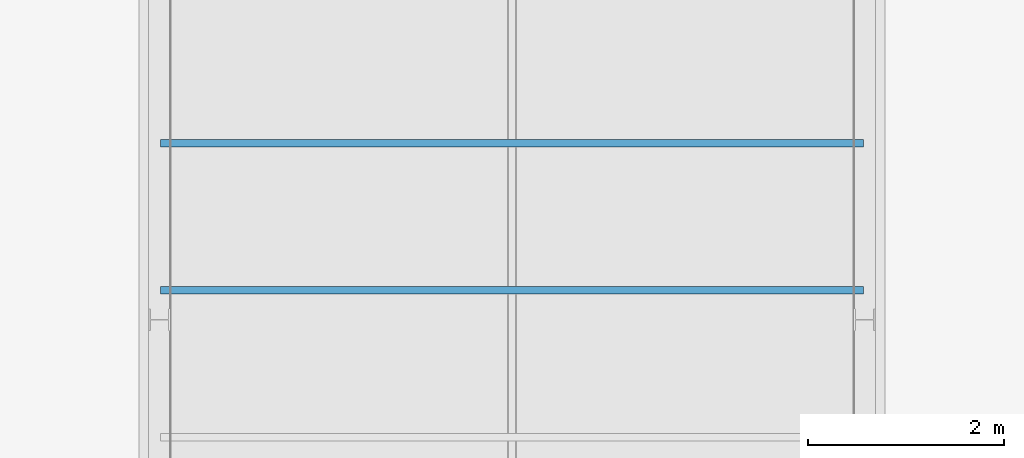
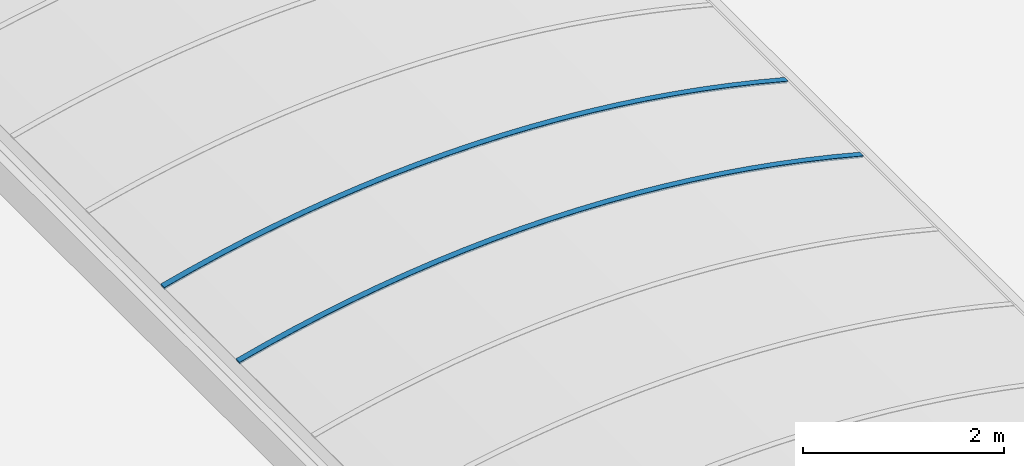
# One storey, part 57 of 81: 2 beams.
"""IFC2X3 building model written with IfcOpenShell, lengths in millimetres."""

from ifc_helpers import new_model, entity, si_unit, converted_unit, derived_unit, money_unit, direction, frame, origin_with_axes, place, context, subcontext, project, spatial, faceted_brep, material, material_list, type_object, element, save


model = new_model("IFC2X3")

# Units and contexts
model_context = context("Model", 3, precision=0.01, world=origin_with_axes(), true_north=direction((0.0, 1.0)))
body_context = subcontext(model_context, "Body", "Model", "MODEL_VIEW")
ifc_project = project(units=[si_unit("LENGTHUNIT", "METRE", prefix="MILLI"), si_unit("AREAUNIT", "SQUARE_METRE"), si_unit("VOLUMEUNIT", "CUBIC_METRE"), converted_unit("PLANEANGLEUNIT", "DEGREE", entity("IfcPlaneAngleMeasure", 0.0174532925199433), si_unit("PLANEANGLEUNIT", "RADIAN"), dimensions=[0, 0, 0, 0, 0, 0, 0]), money_unit("EUR"), converted_unit("TIMEUNIT", "Year", entity("IfcTimeMeasure", 31557600.0), si_unit("TIMEUNIT", "SECOND"), dimensions=[0, 0, 1, 0, 0, 0, 0]), si_unit("MASSUNIT", "GRAM", prefix="KILO"), si_unit("THERMODYNAMICTEMPERATUREUNIT", "DEGREE_CELSIUS"), si_unit("LUMINOUSINTENSITYUNIT", "LUMEN"), si_unit("ENERGYUNIT", "JOULE", prefix="MEGA"), derived_unit("THERMALCONDUCTANCEUNIT", [(si_unit("POWERUNIT", "WATT"), 1), (si_unit("LENGTHUNIT", "METRE"), -1), (si_unit("THERMODYNAMICTEMPERATUREUNIT", "KELVIN"), -1)]), derived_unit("SPECIFICHEATCAPACITYUNIT", [(si_unit("ENERGYUNIT", "JOULE"), 1), (si_unit("MASSUNIT", "GRAM", prefix="KILO"), -1), (si_unit("THERMODYNAMICTEMPERATUREUNIT", "KELVIN"), -1)]), derived_unit("MASSDENSITYUNIT", [(si_unit("MASSUNIT", "GRAM", prefix="KILO"), 1), (si_unit("VOLUMEUNIT", "CUBIC_METRE"), -1)])], contexts=[model_context])

# Site, building, storey
site_placement = place(None, origin_with_axes())
site = spatial("IfcSite", under=ifc_project, at=site_placement, Name="Site", CompositionType="ELEMENT")
building_placement = place(site_placement, origin_with_axes())
building = spatial("IfcBuilding", under=site, at=building_placement, Name="Naam gebouw", CompositionType="ELEMENT")
storey_placement = place(building_placement, frame((0.0, 0.0, 15320.0), z_axis=(0.0, 0.0, 1.0), x_axis=(1.0, 0.0, 0.0)))
storey = spatial("IfcBuildingStorey", under=building, at=storey_placement, Name="01 dak", CompositionType="ELEMENT", Elevation=15320.0)

# Beams
ifc_material = material(Name="Metaal - Aluminium AFW")
ifc_material_list = material_list([ifc_material, ifc_material])
beam_type = type_object("IfcBeamType", Name="lichtstraat polycarbonaat (constructie) 7420 x 670", PredefinedType="BEAM")
beam_1_placement = place(storey_placement, frame((105300.0, 83862.50000000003, 559.9999999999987), z_axis=(0.0, 0.0, 1.0), x_axis=(1.0, 0.0, 0.0)))
element("IfcBeam", 1, at=beam_1_placement, inside=storey, type_object=beam_type, material=ifc_material_list, Name="Plafondafwerking 3", ObjectType="BEAM", context=body_context, shape_type="Brep", body=[
    faceted_brep([(-3532.999999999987, 75.00000000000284, 192.1385480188), (-3532.999999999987, 0.0, 192.1385480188), (-3582.999999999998, 0.0, 179.000000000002), (-3582.999999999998, 75.00000000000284, 179.000000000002), (-3527.999999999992, 75.00000000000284, 193.4415530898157), (-3527.999999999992, 0.0, 193.4415530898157), (-2943.44844329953, 0.0, 337.3385317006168), (-3264.746952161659, 0.0, 264.2761146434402), (-3584.237010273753, 0.0, 183.6724462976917), (-3213.32287812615, 0.0, 271.5053933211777), (-2896.922437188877, 0.0, 342.2614189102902), (-2578.96836412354, 0.0, 405.6716830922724), (-2259.631179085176, 0.0, 461.7021786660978), (-1939.082143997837, 0.0, 510.3228562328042), (-1617.493170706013, 0.0, 551.5076403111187), (-1295.036728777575, 0.0, 585.2344433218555), (-971.8857530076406, 0.0, 611.485177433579), (-648.2135506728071, 0.0, 630.2457642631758), (-324.1937085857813, 0.0, 641.5061424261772), (0.0, 0.0, 645.2602729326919), (324.1937085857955, 0.0, 641.5061424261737), (648.2135506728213, 0.0, 630.2457642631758), (971.8857530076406, 0.0, 611.4851774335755), (1295.036728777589, 0.0, 585.2344433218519), (1617.493170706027, 0.0, 551.5076403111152), (1939.082143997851, 0.0, 510.3228562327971), (2259.63117908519, 0.0, 461.7021786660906), (2578.96836412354, 0.0, 405.6716830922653), (2896.922437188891, 0.0, 342.2614189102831), (3213.322878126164, 0.0, 271.5053933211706), (3528.000000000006, 0.0, 193.4415530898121), (3528.000000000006, 0.0, 194.0000000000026), (3533.000000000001, 0.0, 194.0000000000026), (3533.000000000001, 0.0, 192.1385480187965), (3582.999999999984, 0.0, 179.000000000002), (3584.237010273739, 0.0, 183.6724462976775), (3264.746952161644, 0.0, 264.2761146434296), (2943.448443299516, 0.0, 337.3385317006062), (2620.51946150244, 0.0, 402.8192257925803), (2296.138887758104, 0.0, 460.6819250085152), (1970.486407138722, 0.0, 510.8945772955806), (1643.742409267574, 0.0, 553.4293682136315), (1316.087888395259, 0.0, 588.2627363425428), (987.7043431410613, 0.0, 615.3753863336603), (658.7736759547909, 0.0, 634.7522995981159), (329.4780923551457, 0.0, 646.3827426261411), (0.0, 0.0, 650.2602729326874), (-329.4780923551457, 0.0, 646.3827426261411), (-658.7736759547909, 0.0, 634.7522995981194), (-987.7043431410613, 0.0, 615.375386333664), (-1316.087888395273, 0.0, 588.2627363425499), (-1643.742409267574, 0.0, 553.4293682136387), (-1970.486407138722, 0.0, 510.8945772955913), (-2296.138887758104, 0.0, 460.6819250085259), (-2620.519461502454, 0.0, 402.8192257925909), (-3584.237010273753, 75.00000000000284, 183.6724462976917), (-3213.32287812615, 75.00000000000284, 271.5053933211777), (-3264.746952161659, 75.00000000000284, 264.2761146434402), (-2943.44844329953, 75.00000000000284, 337.3385317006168), (-2620.519461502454, 75.00000000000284, 402.8192257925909), (-2296.138887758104, 75.00000000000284, 460.6819250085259), (-1970.486407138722, 75.00000000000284, 510.8945772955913), (-1643.742409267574, 75.00000000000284, 553.4293682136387), (-1316.087888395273, 75.00000000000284, 588.2627363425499), (-987.7043431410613, 75.00000000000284, 615.375386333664), (-658.7736759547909, 75.00000000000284, 634.7522995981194), (-329.4780923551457, 75.00000000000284, 646.3827426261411), (0.0, 75.00000000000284, 650.2602729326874), (329.4780923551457, 75.00000000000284, 646.3827426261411), (658.7736759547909, 75.00000000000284, 634.7522995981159), (987.7043431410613, 75.00000000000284, 615.3753863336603), (1316.087888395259, 75.00000000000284, 588.2627363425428), (1643.742409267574, 75.00000000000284, 553.4293682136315), (1970.486407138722, 75.00000000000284, 510.8945772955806), (2296.138887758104, 75.00000000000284, 460.6819250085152), (2620.51946150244, 75.00000000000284, 402.8192257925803), (2943.448443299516, 75.00000000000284, 337.3385317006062), (3264.746952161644, 75.00000000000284, 264.2761146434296), (3584.237010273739, 75.00000000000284, 183.6724462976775), (3582.999999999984, 75.00000000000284, 179.000000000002), (3533.000000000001, 75.00000000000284, 192.1385480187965), (3533.000000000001, 75.00000000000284, 194.0000000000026), (3528.000000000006, 75.00000000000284, 194.0000000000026), (3528.000000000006, 75.00000000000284, 193.4415530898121), (3213.322878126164, 75.00000000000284, 271.5053933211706), (2896.922437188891, 75.00000000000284, 342.2614189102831), (2578.96836412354, 75.00000000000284, 405.6716830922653), (2259.63117908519, 75.00000000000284, 461.7021786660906), (1939.082143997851, 75.00000000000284, 510.3228562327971), (1617.493170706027, 75.00000000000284, 551.5076403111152), (1295.036728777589, 75.00000000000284, 585.2344433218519), (971.8857530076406, 75.00000000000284, 611.4851774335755), (648.2135506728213, 75.00000000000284, 630.2457642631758), (324.1937085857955, 75.00000000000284, 641.5061424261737), (0.0, 75.00000000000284, 645.2602729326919), (-324.1937085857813, 75.00000000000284, 641.5061424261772), (-648.2135506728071, 75.00000000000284, 630.2457642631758), (-971.8857530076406, 75.00000000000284, 611.485177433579), (-1295.036728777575, 75.00000000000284, 585.2344433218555), (-1617.493170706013, 75.00000000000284, 551.5076403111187), (-1939.082143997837, 75.00000000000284, 510.3228562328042), (-2259.631179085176, 75.00000000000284, 461.7021786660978), (-2578.96836412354, 75.00000000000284, 405.6716830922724), (-2896.922437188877, 75.00000000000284, 342.2614189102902)], [[[0, 1, 2, 3]], [[4, 5, 1, 0]], [[6, 7, 8, 2, 1, 5, 9, 10, 11, 12, 13, 14, 15, 16, 17, 18, 19, 20, 21, 22, 23, 24, 25, 26, 27, 28, 29, 30, 31, 32, 33, 34, 35, 36, 37, 38, 39, 40, 41, 42, 43, 44, 45, 46, 47, 48, 49, 50, 51, 52, 53, 54]], [[3, 2, 8, 55]], [[56, 4, 0, 3, 55, 57, 58, 59, 60, 61, 62, 63, 64, 65, 66, 67, 68, 69, 70, 71, 72, 73, 74, 75, 76, 77, 78, 79, 80, 81, 82, 83, 84, 85, 86, 87, 88, 89, 90, 91, 92, 93, 94, 95, 96, 97, 98, 99, 100, 101, 102, 103]], [[56, 9, 5, 4]], [[57, 7, 6, 58]], [[55, 8, 7, 57]], [[103, 10, 9, 56]], [[102, 11, 10, 103]], [[101, 12, 11, 102]], [[100, 13, 12, 101]], [[99, 14, 13, 100]], [[98, 15, 14, 99]], [[97, 16, 15, 98]], [[96, 17, 16, 97]], [[95, 18, 17, 96]], [[94, 19, 18, 95]], [[93, 20, 19, 94]], [[92, 21, 20, 93]], [[91, 22, 21, 92]], [[90, 23, 22, 91]], [[89, 24, 23, 90]], [[88, 25, 24, 89]], [[87, 26, 25, 88]], [[86, 27, 26, 87]], [[85, 28, 27, 86]], [[84, 29, 28, 85]], [[83, 30, 29, 84]], [[82, 31, 30, 83]], [[81, 32, 31, 82]], [[80, 33, 32, 81]], [[79, 34, 33, 80]], [[78, 35, 34, 79]], [[77, 36, 35, 78]], [[76, 37, 36, 77]], [[75, 38, 37, 76]], [[74, 39, 38, 75]], [[73, 40, 39, 74]], [[72, 41, 40, 73]], [[71, 42, 41, 72]], [[70, 43, 42, 71]], [[69, 44, 43, 70]], [[68, 45, 44, 69]], [[67, 46, 45, 68]], [[66, 47, 46, 67]], [[65, 48, 47, 66]], [[64, 49, 48, 65]], [[63, 50, 49, 64]], [[62, 51, 50, 63]], [[61, 52, 51, 62]], [[60, 53, 52, 61]], [[59, 54, 53, 60]], [[58, 6, 54, 59]]]),
    faceted_brep([(3269.271727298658, 75.00000000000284, 283.190243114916), (2947.542627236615, 75.00000000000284, 356.4574241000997), (2947.542627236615, 0.0, 356.4574241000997), (3269.271727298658, 0.0, 283.190243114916), (3589.184752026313, 75.00000000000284, 202.3611008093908), (3587.947861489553, 75.00000000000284, 197.6891067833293), (3528.000000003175, 75.00000000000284, 213.4415530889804), (3213.322878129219, 75.00000000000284, 291.505393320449), (2896.922437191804, 75.00000000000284, 362.2614189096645), (2578.968364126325, 75.00000000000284, 425.6716830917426), (2259.631179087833, 75.00000000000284, 481.7021786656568), (1939.082144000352, 75.00000000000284, 530.3228562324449), (1617.493170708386, 75.00000000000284, 571.5076403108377), (1295.036728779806, 75.00000000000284, 605.2344433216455), (971.8857530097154, 75.00000000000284, 631.4851774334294), (648.2135506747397, 75.00000000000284, 650.2457642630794), (324.1937085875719, 75.00000000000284, 661.5061424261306), (1.63424829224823e-09, 75.00000000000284, 665.2602729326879), (-324.1937085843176, 75.00000000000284, 661.5061424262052), (-648.2135506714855, 75.00000000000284, 650.2457642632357), (-971.8857530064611, 75.00000000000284, 631.4851774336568), (-1295.036728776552, 75.00000000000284, 605.2344433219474), (-1617.493170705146, 75.00000000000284, 571.5076403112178), (-1939.082143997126, 75.00000000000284, 530.3228562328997), (-2259.631179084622, 75.00000000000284, 481.7021786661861), (-2578.968364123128, 75.00000000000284, 425.6716830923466), (-2896.922437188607, 75.00000000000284, 362.2614189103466), (-3213.322878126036, 75.00000000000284, 291.5053933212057), (-3528.00000000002, 75.00000000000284, 213.4415530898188), (-3533.000000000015, 75.00000000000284, 212.1385480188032), (-3587.947861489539, 75.00000000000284, 197.6891067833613), (-3589.184752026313, 75.00000000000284, 202.3611008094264), (-3269.271727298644, 75.00000000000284, 283.1902431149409), (-2947.542627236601, 75.00000000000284, 356.4574241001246), (-2624.176171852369, 75.00000000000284, 422.1219439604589), (-2299.351990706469, 75.00000000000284, 480.1473261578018), (-1973.250523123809, 75.00000000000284, 530.5013376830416), (-1646.052917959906, 75.00000000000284, 573.156006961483), (-1317.940932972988, 75.00000000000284, 608.0876393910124), (-989.0968338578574, 75.00000000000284, 635.2768305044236), (-659.7032929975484, 75.00000000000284, 654.7084767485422), (-329.9432879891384, 75.00000000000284, 666.3717838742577), (0.0, 75.00000000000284, 670.2602729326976), (329.9432879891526, 75.00000000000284, 666.3717838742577), (659.7032929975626, 75.00000000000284, 654.7084767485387), (989.0968338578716, 75.00000000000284, 635.2768305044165), (1317.940932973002, 75.00000000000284, 608.0876393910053), (1646.052917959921, 75.00000000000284, 573.1560069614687), (1973.250523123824, 75.00000000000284, 530.5013376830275), (2299.351990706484, 75.00000000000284, 480.147326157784), (2624.176171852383, 75.00000000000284, 422.1219439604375), (2624.176171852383, 0.0, 422.1219439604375), (2299.351990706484, 0.0, 480.147326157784), (1973.250523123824, 0.0, 530.5013376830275), (1646.052917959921, 0.0, 573.1560069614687), (1317.940932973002, 0.0, 608.0876393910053), (989.0968338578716, 0.0, 635.2768305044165), (659.7032929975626, 0.0, 654.7084767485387), (329.9432879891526, 0.0, 666.3717838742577), (0.0, 0.0, 670.2602729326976), (-329.9432879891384, 0.0, 666.3717838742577), (-659.7032929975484, 0.0, 654.7084767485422), (-989.0968338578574, 0.0, 635.2768305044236), (-1317.940932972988, 0.0, 608.0876393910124), (-1646.052917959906, 0.0, 573.156006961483), (-1973.250523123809, 0.0, 530.5013376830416), (-2299.351990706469, 0.0, 480.1473261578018), (-2624.176171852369, 0.0, 422.1219439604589), (-2947.542627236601, 0.0, 356.4574241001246), (-3269.271727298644, 0.0, 283.1902431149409), (-3589.184752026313, 0.0, 202.3611008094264), (-3587.947861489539, 0.0, 197.6891067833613), (-3533.000000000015, 0.0, 212.1385480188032), (-3528.00000000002, 0.0, 213.4415530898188), (-3213.322878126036, 0.0, 291.5053933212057), (-2896.922437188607, 0.0, 362.2614189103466), (-2578.968364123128, 0.0, 425.6716830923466), (-2259.631179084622, 0.0, 481.7021786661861), (-1939.082143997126, 0.0, 530.3228562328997), (-1617.493170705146, 0.0, 571.5076403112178), (-1295.036728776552, 0.0, 605.2344433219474), (-971.8857530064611, 0.0, 631.4851774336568), (-648.2135506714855, 0.0, 650.2457642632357), (-324.1937085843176, 0.0, 661.5061424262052), (1.63424829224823e-09, 0.0, 665.2602729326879), (324.1937085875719, 0.0, 661.5061424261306), (648.2135506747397, 0.0, 650.2457642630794), (971.8857530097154, 0.0, 631.4851774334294), (1295.036728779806, 0.0, 605.2344433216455), (1617.493170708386, 0.0, 571.5076403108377), (1939.082144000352, 0.0, 530.3228562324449), (2259.631179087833, 0.0, 481.7021786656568), (2578.968364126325, 0.0, 425.6716830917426), (2896.922437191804, 0.0, 362.2614189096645), (3213.322878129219, 0.0, 291.505393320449), (3528.000000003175, 0.0, 213.4415530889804), (3587.947861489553, 0.0, 197.6891067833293), (3589.184752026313, 0.0, 202.3611008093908)], [[[0, 1, 2, 3]], [[0, 4, 5, 6, 7, 8, 9, 10, 11, 12, 13, 14, 15, 16, 17, 18, 19, 20, 21, 22, 23, 24, 25, 26, 27, 28, 29, 30, 31, 32, 33, 34, 35, 36, 37, 38, 39, 40, 41, 42, 43, 44, 45, 46, 47, 48, 49, 50, 1]], [[1, 50, 51, 2]], [[3, 2, 51, 52, 53, 54, 55, 56, 57, 58, 59, 60, 61, 62, 63, 64, 65, 66, 67, 68, 69, 70, 71, 72, 73, 74, 75, 76, 77, 78, 79, 80, 81, 82, 83, 84, 85, 86, 87, 88, 89, 90, 91, 92, 93, 94, 95, 96, 97]], [[4, 0, 3, 97]], [[5, 4, 97, 96]], [[6, 5, 96, 95]], [[7, 6, 95, 94]], [[8, 7, 94, 93]], [[9, 8, 93, 92]], [[10, 9, 92, 91]], [[11, 10, 91, 90]], [[12, 11, 90, 89]], [[13, 12, 89, 88]], [[14, 13, 88, 87]], [[15, 14, 87, 86]], [[16, 15, 86, 85]], [[17, 16, 85, 84]], [[18, 17, 84, 83]], [[19, 18, 83, 82]], [[20, 19, 82, 81]], [[21, 20, 81, 80]], [[22, 21, 80, 79]], [[23, 22, 79, 78]], [[24, 23, 78, 77]], [[25, 24, 77, 76]], [[26, 25, 76, 75]], [[27, 26, 75, 74]], [[28, 27, 74, 73]], [[29, 28, 73, 72]], [[30, 29, 72, 71]], [[31, 30, 71, 70]], [[32, 31, 70, 69]], [[33, 32, 69, 68]], [[34, 33, 68, 67]], [[35, 34, 67, 66]], [[36, 35, 66, 65]], [[37, 36, 65, 64]], [[38, 37, 64, 63]], [[39, 38, 63, 62]], [[40, 39, 62, 61]], [[41, 40, 61, 60]], [[42, 41, 60, 59]], [[43, 42, 59, 58]], [[44, 43, 58, 57]], [[45, 44, 57, 56]], [[46, 45, 56, 55]], [[47, 46, 55, 54]], [[48, 47, 54, 53]], [[49, 48, 53, 52]], [[50, 49, 52, 51]]]),
])
beam_2_placement = place(storey_placement, frame((105300.0, 85362.50000000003, 559.9999999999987), z_axis=(0.0, 0.0, 1.0), x_axis=(1.0, 0.0, 0.0)))
element("IfcBeam", 2, at=beam_2_placement, inside=storey, type_object=beam_type, material=ifc_material_list, Name="Plafondafwerking 3", ObjectType="BEAM", context=body_context, shape_type="Brep", body=[
    faceted_brep([(-3532.999999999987, 75.00000000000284, 192.1385480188), (-3532.999999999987, 0.0, 192.1385480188), (-3582.999999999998, 0.0, 179.000000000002), (-3582.999999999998, 75.00000000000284, 179.000000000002), (-3527.999999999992, 75.00000000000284, 193.4415530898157), (-3527.999999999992, 0.0, 193.4415530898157), (-2943.44844329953, 0.0, 337.3385317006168), (-3264.746952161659, 0.0, 264.2761146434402), (-3584.237010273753, 0.0, 183.6724462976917), (-3213.32287812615, 0.0, 271.5053933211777), (-2896.922437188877, 0.0, 342.2614189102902), (-2578.96836412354, 0.0, 405.6716830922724), (-2259.631179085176, 0.0, 461.7021786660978), (-1939.082143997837, 0.0, 510.3228562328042), (-1617.493170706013, 0.0, 551.5076403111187), (-1295.036728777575, 0.0, 585.2344433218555), (-971.8857530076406, 0.0, 611.485177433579), (-648.2135506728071, 0.0, 630.2457642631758), (-324.1937085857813, 0.0, 641.5061424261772), (0.0, 0.0, 645.2602729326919), (324.1937085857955, 0.0, 641.5061424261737), (648.2135506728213, 0.0, 630.2457642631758), (971.8857530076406, 0.0, 611.4851774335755), (1295.036728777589, 0.0, 585.2344433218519), (1617.493170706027, 0.0, 551.5076403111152), (1939.082143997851, 0.0, 510.3228562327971), (2259.63117908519, 0.0, 461.7021786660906), (2578.96836412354, 0.0, 405.6716830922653), (2896.922437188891, 0.0, 342.2614189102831), (3213.322878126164, 0.0, 271.5053933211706), (3528.000000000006, 0.0, 193.4415530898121), (3528.000000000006, 0.0, 194.0000000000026), (3533.000000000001, 0.0, 194.0000000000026), (3533.000000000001, 0.0, 192.1385480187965), (3582.999999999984, 0.0, 179.000000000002), (3584.237010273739, 0.0, 183.6724462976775), (3264.746952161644, 0.0, 264.2761146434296), (2943.448443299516, 0.0, 337.3385317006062), (2620.51946150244, 0.0, 402.8192257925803), (2296.138887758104, 0.0, 460.6819250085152), (1970.486407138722, 0.0, 510.8945772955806), (1643.742409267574, 0.0, 553.4293682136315), (1316.087888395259, 0.0, 588.2627363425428), (987.7043431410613, 0.0, 615.3753863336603), (658.7736759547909, 0.0, 634.7522995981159), (329.4780923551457, 0.0, 646.3827426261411), (0.0, 0.0, 650.2602729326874), (-329.4780923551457, 0.0, 646.3827426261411), (-658.7736759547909, 0.0, 634.7522995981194), (-987.7043431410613, 0.0, 615.375386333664), (-1316.087888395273, 0.0, 588.2627363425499), (-1643.742409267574, 0.0, 553.4293682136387), (-1970.486407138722, 0.0, 510.8945772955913), (-2296.138887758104, 0.0, 460.6819250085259), (-2620.519461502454, 0.0, 402.8192257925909), (-3584.237010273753, 75.00000000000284, 183.6724462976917), (-3213.32287812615, 75.00000000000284, 271.5053933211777), (-3264.746952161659, 75.00000000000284, 264.2761146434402), (-2943.44844329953, 75.00000000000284, 337.3385317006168), (-2620.519461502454, 75.00000000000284, 402.8192257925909), (-2296.138887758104, 75.00000000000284, 460.6819250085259), (-1970.486407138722, 75.00000000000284, 510.8945772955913), (-1643.742409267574, 75.00000000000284, 553.4293682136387), (-1316.087888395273, 75.00000000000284, 588.2627363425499), (-987.7043431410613, 75.00000000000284, 615.375386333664), (-658.7736759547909, 75.00000000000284, 634.7522995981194), (-329.4780923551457, 75.00000000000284, 646.3827426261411), (0.0, 75.00000000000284, 650.2602729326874), (329.4780923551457, 75.00000000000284, 646.3827426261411), (658.7736759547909, 75.00000000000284, 634.7522995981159), (987.7043431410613, 75.00000000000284, 615.3753863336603), (1316.087888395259, 75.00000000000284, 588.2627363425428), (1643.742409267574, 75.00000000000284, 553.4293682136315), (1970.486407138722, 75.00000000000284, 510.8945772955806), (2296.138887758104, 75.00000000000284, 460.6819250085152), (2620.51946150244, 75.00000000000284, 402.8192257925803), (2943.448443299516, 75.00000000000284, 337.3385317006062), (3264.746952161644, 75.00000000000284, 264.2761146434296), (3584.237010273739, 75.00000000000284, 183.6724462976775), (3582.999999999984, 75.00000000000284, 179.000000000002), (3533.000000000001, 75.00000000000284, 192.1385480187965), (3533.000000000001, 75.00000000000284, 194.0000000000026), (3528.000000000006, 75.00000000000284, 194.0000000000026), (3528.000000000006, 75.00000000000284, 193.4415530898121), (3213.322878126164, 75.00000000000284, 271.5053933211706), (2896.922437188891, 75.00000000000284, 342.2614189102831), (2578.96836412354, 75.00000000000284, 405.6716830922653), (2259.63117908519, 75.00000000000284, 461.7021786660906), (1939.082143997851, 75.00000000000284, 510.3228562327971), (1617.493170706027, 75.00000000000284, 551.5076403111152), (1295.036728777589, 75.00000000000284, 585.2344433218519), (971.8857530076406, 75.00000000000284, 611.4851774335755), (648.2135506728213, 75.00000000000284, 630.2457642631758), (324.1937085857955, 75.00000000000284, 641.5061424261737), (0.0, 75.00000000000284, 645.2602729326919), (-324.1937085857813, 75.00000000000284, 641.5061424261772), (-648.2135506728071, 75.00000000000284, 630.2457642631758), (-971.8857530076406, 75.00000000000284, 611.485177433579), (-1295.036728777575, 75.00000000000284, 585.2344433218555), (-1617.493170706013, 75.00000000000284, 551.5076403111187), (-1939.082143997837, 75.00000000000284, 510.3228562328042), (-2259.631179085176, 75.00000000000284, 461.7021786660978), (-2578.96836412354, 75.00000000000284, 405.6716830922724), (-2896.922437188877, 75.00000000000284, 342.2614189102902)], [[[0, 1, 2, 3]], [[4, 5, 1, 0]], [[6, 7, 8, 2, 1, 5, 9, 10, 11, 12, 13, 14, 15, 16, 17, 18, 19, 20, 21, 22, 23, 24, 25, 26, 27, 28, 29, 30, 31, 32, 33, 34, 35, 36, 37, 38, 39, 40, 41, 42, 43, 44, 45, 46, 47, 48, 49, 50, 51, 52, 53, 54]], [[3, 2, 8, 55]], [[56, 4, 0, 3, 55, 57, 58, 59, 60, 61, 62, 63, 64, 65, 66, 67, 68, 69, 70, 71, 72, 73, 74, 75, 76, 77, 78, 79, 80, 81, 82, 83, 84, 85, 86, 87, 88, 89, 90, 91, 92, 93, 94, 95, 96, 97, 98, 99, 100, 101, 102, 103]], [[56, 9, 5, 4]], [[57, 7, 6, 58]], [[55, 8, 7, 57]], [[103, 10, 9, 56]], [[102, 11, 10, 103]], [[101, 12, 11, 102]], [[100, 13, 12, 101]], [[99, 14, 13, 100]], [[98, 15, 14, 99]], [[97, 16, 15, 98]], [[96, 17, 16, 97]], [[95, 18, 17, 96]], [[94, 19, 18, 95]], [[93, 20, 19, 94]], [[92, 21, 20, 93]], [[91, 22, 21, 92]], [[90, 23, 22, 91]], [[89, 24, 23, 90]], [[88, 25, 24, 89]], [[87, 26, 25, 88]], [[86, 27, 26, 87]], [[85, 28, 27, 86]], [[84, 29, 28, 85]], [[83, 30, 29, 84]], [[82, 31, 30, 83]], [[81, 32, 31, 82]], [[80, 33, 32, 81]], [[79, 34, 33, 80]], [[78, 35, 34, 79]], [[77, 36, 35, 78]], [[76, 37, 36, 77]], [[75, 38, 37, 76]], [[74, 39, 38, 75]], [[73, 40, 39, 74]], [[72, 41, 40, 73]], [[71, 42, 41, 72]], [[70, 43, 42, 71]], [[69, 44, 43, 70]], [[68, 45, 44, 69]], [[67, 46, 45, 68]], [[66, 47, 46, 67]], [[65, 48, 47, 66]], [[64, 49, 48, 65]], [[63, 50, 49, 64]], [[62, 51, 50, 63]], [[61, 52, 51, 62]], [[60, 53, 52, 61]], [[59, 54, 53, 60]], [[58, 6, 54, 59]]]),
    faceted_brep([(3269.271727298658, 75.00000000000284, 283.190243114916), (2947.542627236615, 75.00000000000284, 356.4574241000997), (2947.542627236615, 0.0, 356.4574241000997), (3269.271727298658, 0.0, 283.190243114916), (3589.184752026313, 75.00000000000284, 202.3611008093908), (3587.947861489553, 75.00000000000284, 197.6891067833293), (3528.000000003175, 75.00000000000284, 213.4415530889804), (3213.322878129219, 75.00000000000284, 291.505393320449), (2896.922437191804, 75.00000000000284, 362.2614189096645), (2578.968364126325, 75.00000000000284, 425.6716830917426), (2259.631179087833, 75.00000000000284, 481.7021786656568), (1939.082144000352, 75.00000000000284, 530.3228562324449), (1617.493170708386, 75.00000000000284, 571.5076403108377), (1295.036728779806, 75.00000000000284, 605.2344433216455), (971.8857530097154, 75.00000000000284, 631.4851774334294), (648.2135506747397, 75.00000000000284, 650.2457642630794), (324.1937085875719, 75.00000000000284, 661.5061424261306), (1.63424829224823e-09, 75.00000000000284, 665.2602729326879), (-324.1937085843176, 75.00000000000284, 661.5061424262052), (-648.2135506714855, 75.00000000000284, 650.2457642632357), (-971.8857530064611, 75.00000000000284, 631.4851774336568), (-1295.036728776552, 75.00000000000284, 605.2344433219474), (-1617.493170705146, 75.00000000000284, 571.5076403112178), (-1939.082143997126, 75.00000000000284, 530.3228562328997), (-2259.631179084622, 75.00000000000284, 481.7021786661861), (-2578.968364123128, 75.00000000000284, 425.6716830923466), (-2896.922437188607, 75.00000000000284, 362.2614189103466), (-3213.322878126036, 75.00000000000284, 291.5053933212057), (-3528.00000000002, 75.00000000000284, 213.4415530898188), (-3533.000000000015, 75.00000000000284, 212.1385480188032), (-3587.947861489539, 75.00000000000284, 197.6891067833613), (-3589.184752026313, 75.00000000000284, 202.3611008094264), (-3269.271727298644, 75.00000000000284, 283.1902431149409), (-2947.542627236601, 75.00000000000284, 356.4574241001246), (-2624.176171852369, 75.00000000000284, 422.1219439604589), (-2299.351990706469, 75.00000000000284, 480.1473261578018), (-1973.250523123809, 75.00000000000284, 530.5013376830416), (-1646.052917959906, 75.00000000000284, 573.156006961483), (-1317.940932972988, 75.00000000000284, 608.0876393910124), (-989.0968338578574, 75.00000000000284, 635.2768305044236), (-659.7032929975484, 75.00000000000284, 654.7084767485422), (-329.9432879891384, 75.00000000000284, 666.3717838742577), (0.0, 75.00000000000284, 670.2602729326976), (329.9432879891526, 75.00000000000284, 666.3717838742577), (659.7032929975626, 75.00000000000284, 654.7084767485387), (989.0968338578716, 75.00000000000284, 635.2768305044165), (1317.940932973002, 75.00000000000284, 608.0876393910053), (1646.052917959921, 75.00000000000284, 573.1560069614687), (1973.250523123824, 75.00000000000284, 530.5013376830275), (2299.351990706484, 75.00000000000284, 480.147326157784), (2624.176171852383, 75.00000000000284, 422.1219439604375), (2624.176171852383, 0.0, 422.1219439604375), (2299.351990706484, 0.0, 480.147326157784), (1973.250523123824, 0.0, 530.5013376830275), (1646.052917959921, 0.0, 573.1560069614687), (1317.940932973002, 0.0, 608.0876393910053), (989.0968338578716, 0.0, 635.2768305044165), (659.7032929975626, 0.0, 654.7084767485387), (329.9432879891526, 0.0, 666.3717838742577), (0.0, 0.0, 670.2602729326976), (-329.9432879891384, 0.0, 666.3717838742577), (-659.7032929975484, 0.0, 654.7084767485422), (-989.0968338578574, 0.0, 635.2768305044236), (-1317.940932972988, 0.0, 608.0876393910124), (-1646.052917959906, 0.0, 573.156006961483), (-1973.250523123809, 0.0, 530.5013376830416), (-2299.351990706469, 0.0, 480.1473261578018), (-2624.176171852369, 0.0, 422.1219439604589), (-2947.542627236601, 0.0, 356.4574241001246), (-3269.271727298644, 0.0, 283.1902431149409), (-3589.184752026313, 0.0, 202.3611008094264), (-3587.947861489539, 0.0, 197.6891067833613), (-3533.000000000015, 0.0, 212.1385480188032), (-3528.00000000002, 0.0, 213.4415530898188), (-3213.322878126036, 0.0, 291.5053933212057), (-2896.922437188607, 0.0, 362.2614189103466), (-2578.968364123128, 0.0, 425.6716830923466), (-2259.631179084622, 0.0, 481.7021786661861), (-1939.082143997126, 0.0, 530.3228562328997), (-1617.493170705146, 0.0, 571.5076403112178), (-1295.036728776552, 0.0, 605.2344433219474), (-971.8857530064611, 0.0, 631.4851774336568), (-648.2135506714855, 0.0, 650.2457642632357), (-324.1937085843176, 0.0, 661.5061424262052), (1.63424829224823e-09, 0.0, 665.2602729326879), (324.1937085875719, 0.0, 661.5061424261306), (648.2135506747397, 0.0, 650.2457642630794), (971.8857530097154, 0.0, 631.4851774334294), (1295.036728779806, 0.0, 605.2344433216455), (1617.493170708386, 0.0, 571.5076403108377), (1939.082144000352, 0.0, 530.3228562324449), (2259.631179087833, 0.0, 481.7021786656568), (2578.968364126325, 0.0, 425.6716830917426), (2896.922437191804, 0.0, 362.2614189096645), (3213.322878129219, 0.0, 291.505393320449), (3528.000000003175, 0.0, 213.4415530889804), (3587.947861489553, 0.0, 197.6891067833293), (3589.184752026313, 0.0, 202.3611008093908)], [[[0, 1, 2, 3]], [[0, 4, 5, 6, 7, 8, 9, 10, 11, 12, 13, 14, 15, 16, 17, 18, 19, 20, 21, 22, 23, 24, 25, 26, 27, 28, 29, 30, 31, 32, 33, 34, 35, 36, 37, 38, 39, 40, 41, 42, 43, 44, 45, 46, 47, 48, 49, 50, 1]], [[1, 50, 51, 2]], [[3, 2, 51, 52, 53, 54, 55, 56, 57, 58, 59, 60, 61, 62, 63, 64, 65, 66, 67, 68, 69, 70, 71, 72, 73, 74, 75, 76, 77, 78, 79, 80, 81, 82, 83, 84, 85, 86, 87, 88, 89, 90, 91, 92, 93, 94, 95, 96, 97]], [[4, 0, 3, 97]], [[5, 4, 97, 96]], [[6, 5, 96, 95]], [[7, 6, 95, 94]], [[8, 7, 94, 93]], [[9, 8, 93, 92]], [[10, 9, 92, 91]], [[11, 10, 91, 90]], [[12, 11, 90, 89]], [[13, 12, 89, 88]], [[14, 13, 88, 87]], [[15, 14, 87, 86]], [[16, 15, 86, 85]], [[17, 16, 85, 84]], [[18, 17, 84, 83]], [[19, 18, 83, 82]], [[20, 19, 82, 81]], [[21, 20, 81, 80]], [[22, 21, 80, 79]], [[23, 22, 79, 78]], [[24, 23, 78, 77]], [[25, 24, 77, 76]], [[26, 25, 76, 75]], [[27, 26, 75, 74]], [[28, 27, 74, 73]], [[29, 28, 73, 72]], [[30, 29, 72, 71]], [[31, 30, 71, 70]], [[32, 31, 70, 69]], [[33, 32, 69, 68]], [[34, 33, 68, 67]], [[35, 34, 67, 66]], [[36, 35, 66, 65]], [[37, 36, 65, 64]], [[38, 37, 64, 63]], [[39, 38, 63, 62]], [[40, 39, 62, 61]], [[41, 40, 61, 60]], [[42, 41, 60, 59]], [[43, 42, 59, 58]], [[44, 43, 58, 57]], [[45, 44, 57, 56]], [[46, 45, 56, 55]], [[47, 46, 55, 54]], [[48, 47, 54, 53]], [[49, 48, 53, 52]], [[50, 49, 52, 51]]]),
])

save(model, "model.ifc")
